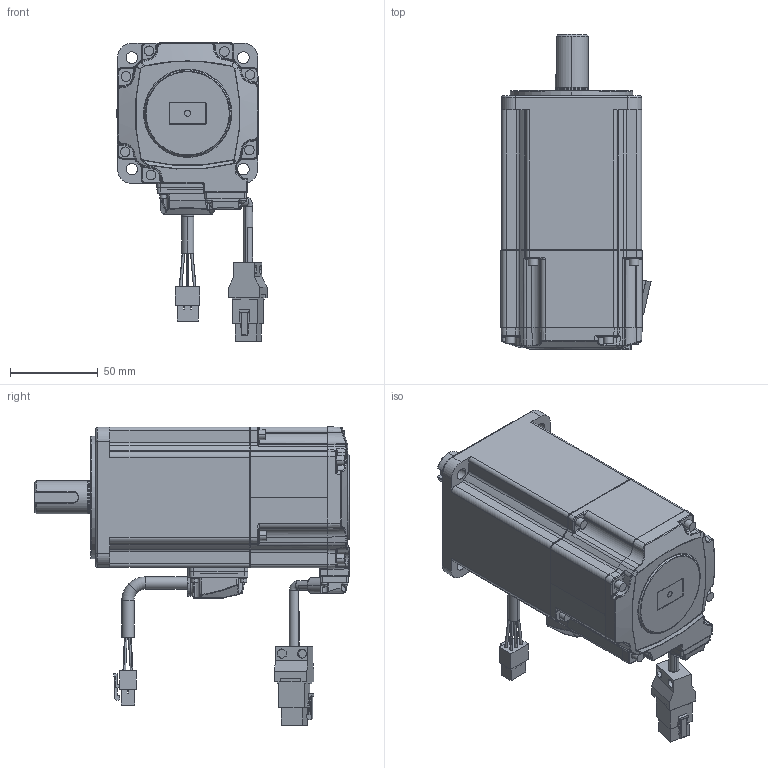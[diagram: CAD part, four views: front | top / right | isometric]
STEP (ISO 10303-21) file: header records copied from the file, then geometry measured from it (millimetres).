
FILE_DESCRIPTION((''),'2;1');
FILE_NAME('ECM-E3M-C20807SSE_202_SW0001','2022-03-24T17:35:21',('MIO.CHEN'),(''),'CREO PARAMETRIC BY PTC INC, 2017110','CREO PARAMETRIC BY PTC INC, 2017110','');
FILE_SCHEMA(('CONFIG_CONTROL_DESIGN'));
Length unit declared in the file: millimetre
Products named in the file (1): ECM-E3M-C20807SSE_202_SW0001
Bounding box: 85.68 x 179.75 x 170.35 mm (x, y, z)
Volume: 850132.7 mm3; surface area: 79055.1 mm2
Topology: 5 solids, 6 shells, 1087 faces, 2727 edges, 1676 vertices
Faces by surface type: plane 367, cylinder 365, bspline 161, torus 112, cone 60, sphere 22
Entity records: 42184 total; most frequent: CARTESIAN_POINT 17528, ORIENTED_EDGE 5414, DIRECTION 4742, EDGE_CURVE 2707, AXIS2_PLACEMENT_3D 1755, VERTEX_POINT 1676, VECTOR 1232, LINE 1232
